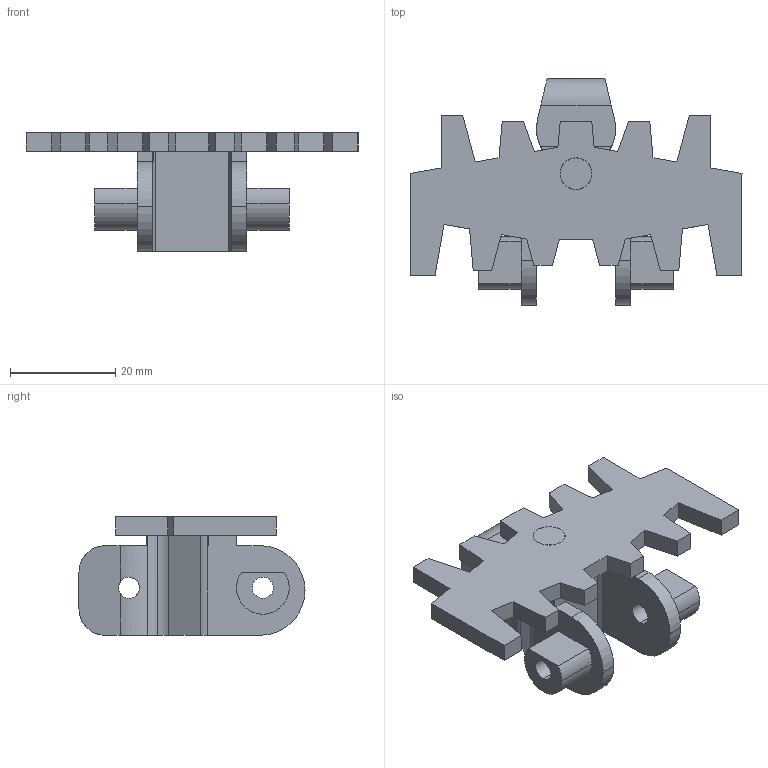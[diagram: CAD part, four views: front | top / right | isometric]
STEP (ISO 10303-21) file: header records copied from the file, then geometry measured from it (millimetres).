
FILE_DESCRIPTION (( 'STEP AP214' ), '1' );
FILE_NAME ('FSMT-5.STEP', '2011-07-06T07:46:38', ( '.' ), ( '' ), 'SwSTEP 2.0', 'SolidWorks 2010', '' );
FILE_SCHEMA (( 'AUTOMOTIVE_DESIGN' ));
Length unit declared in the file: millimetre
Products named in the file (1): FSMT-5
Bounding box: 63 x 42.9 x 22.5 mm (x, y, z)
Volume: 13020.4 mm3; surface area: 7681.8 mm2
Topology: 1 solids, 1 shells, 111 faces, 319 edges, 210 vertices
Faces by surface type: plane 80, cylinder 31
Entity records: 4036 total; most frequent: CARTESIAN_POINT 751, ORIENTED_EDGE 638, DIRECTION 587, EDGE_CURVE 319, VECTOR 251, LINE 251, VERTEX_POINT 210, AXIS2_PLACEMENT_3D 168
